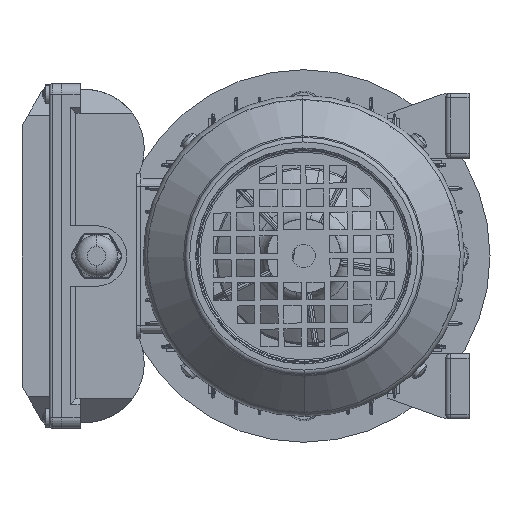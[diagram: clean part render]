
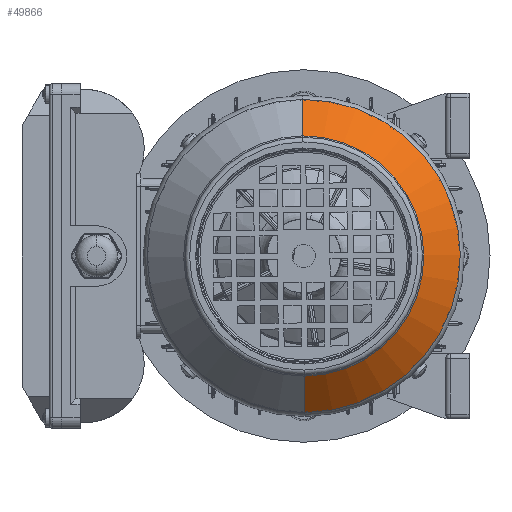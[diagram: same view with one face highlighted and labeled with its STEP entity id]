
A CAD part, left-side view. The second image highlights one B-rep face of the part: STEP entity #49866.
In plain terms, the highlighted conical face has half-angle 45 degrees and reference radius 51.586 mm.
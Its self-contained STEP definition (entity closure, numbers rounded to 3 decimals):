
#440 = EDGE_CURVE ( 'NONE', #63816, #3083, #61958, .T. ) ;
#2215 = DIRECTION ( 'NONE',  ( 0., 0., 1. ) ) ;
#3083 = VERTEX_POINT ( 'NONE', #5853 ) ;
#5853 = CARTESIAN_POINT ( 'NONE',  ( 53.749, 0., 67.251 ) ) ;
#6702 = CARTESIAN_POINT ( 'NONE',  ( 69.414, 0., 51.586 ) ) ;
#10994 = VECTOR ( 'NONE', #131775, 1000. ) ;
#13695 = CARTESIAN_POINT ( 'NONE',  ( 69.414, 0., 0. ) ) ;
#14538 = CARTESIAN_POINT ( 'NONE',  ( 53.749, 0., 0. ) ) ;
#27133 = CARTESIAN_POINT ( 'NONE',  ( 69.414, 0., -51.586 ) ) ;
#28560 = AXIS2_PLACEMENT_3D ( 'NONE', #122654, #71925, #61413 ) ;
#33912 = DIRECTION ( 'NONE',  ( -1., 0., 0. ) ) ;
#33927 = ORIENTED_EDGE ( 'NONE', *, *, #49279, .F. ) ;
#39158 = EDGE_CURVE ( 'NONE', #43506, #63816, #105868, .T. ) ;
#39673 = VERTEX_POINT ( 'NONE', #119466 ) ;
#43506 = VERTEX_POINT ( 'NONE', #92017 ) ;
#43987 = FACE_OUTER_BOUND ( 'NONE', #116630, .T. ) ;
#44112 = DIRECTION ( 'NONE',  ( -1., 0., 0. ) ) ;
#45560 = ORIENTED_EDGE ( 'NONE', *, *, #440, .T. ) ;
#49279 = EDGE_CURVE ( 'NONE', #39673, #3083, #74293, .T. ) ;
#49866 = ADVANCED_FACE ( 'NONE', ( #43987 ), #65306, .T. ) ;
#51657 = EDGE_CURVE ( 'NONE', #43506, #39673, #74756, .T. ) ;
#55092 = DIRECTION ( 'NONE',  ( 0., 0., 1. ) ) ;
#58374 = CARTESIAN_POINT ( 'NONE',  ( 69.414, 0., 51.586 ) ) ;
#61413 = DIRECTION ( 'NONE',  ( 0., 0., 1. ) ) ;
#61958 = LINE ( 'NONE', #6702, #10994 ) ;
#63816 = VERTEX_POINT ( 'NONE', #58374 ) ;
#65306 = CONICAL_SURFACE ( 'NONE', #28560, 51.586, 0.785 ) ;
#68238 = VECTOR ( 'NONE', #100750, 1000. ) ;
#71925 = DIRECTION ( 'NONE',  ( -1., 0., 0. ) ) ;
#74293 = CIRCLE ( 'NONE', #113958, 67.251 ) ;
#74756 = LINE ( 'NONE', #27133, #68238 ) ;
#76417 = AXIS2_PLACEMENT_3D ( 'NONE', #13695, #44112, #2215 ) ;
#92017 = CARTESIAN_POINT ( 'NONE',  ( 69.414, 0., -51.586 ) ) ;
#100750 = DIRECTION ( 'NONE',  ( -0.707, 0., -0.707 ) ) ;
#100906 = ORIENTED_EDGE ( 'NONE', *, *, #39158, .T. ) ;
#105868 = CIRCLE ( 'NONE', #76417, 51.586 ) ;
#113958 = AXIS2_PLACEMENT_3D ( 'NONE', #14538, #33912, #55092 ) ;
#116630 = EDGE_LOOP ( 'NONE', ( #122970, #100906, #45560, #33927 ) ) ;
#119466 = CARTESIAN_POINT ( 'NONE',  ( 53.749, 0., -67.251 ) ) ;
#122654 = CARTESIAN_POINT ( 'NONE',  ( 69.414, 0., 0. ) ) ;
#122970 = ORIENTED_EDGE ( 'NONE', *, *, #51657, .F. ) ;
#131775 = DIRECTION ( 'NONE',  ( -0.707, 0., 0.707 ) ) ;
